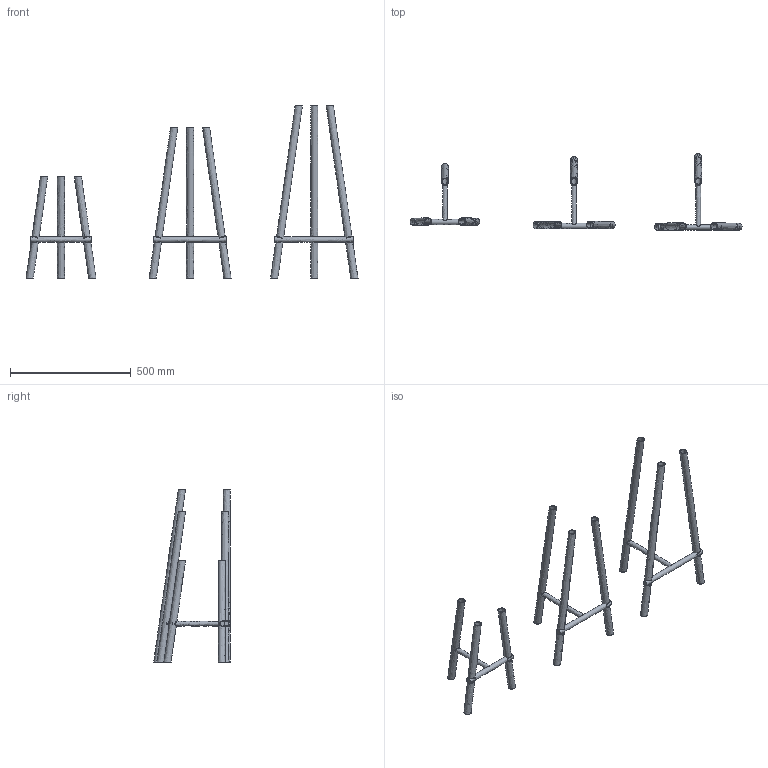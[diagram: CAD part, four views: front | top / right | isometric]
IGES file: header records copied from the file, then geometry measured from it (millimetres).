
Global section: file name: D:\Lavori\Miniforms\sgabotto\sgabello 2\Gambe 3d.igs; native system: Rhinoceros ( Jan 18 2007 ); preprocessor: Trout Lake IGES 012 Jan 18 2007; date: 120219.130822; units: millimetre
Bounding box: 1377.41 x 318.2 x 715 mm (x, y, z)
Surface area: 1042291.3 mm2 (no closed solid volume)
Topology: 0 solids, 0 shells, 65 faces, 15456 edges, 15409 vertices
Faces by surface type: bspline 65
